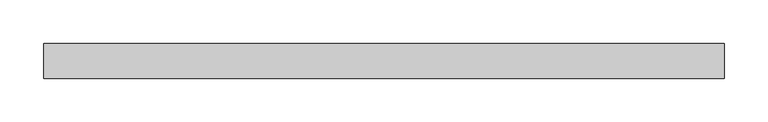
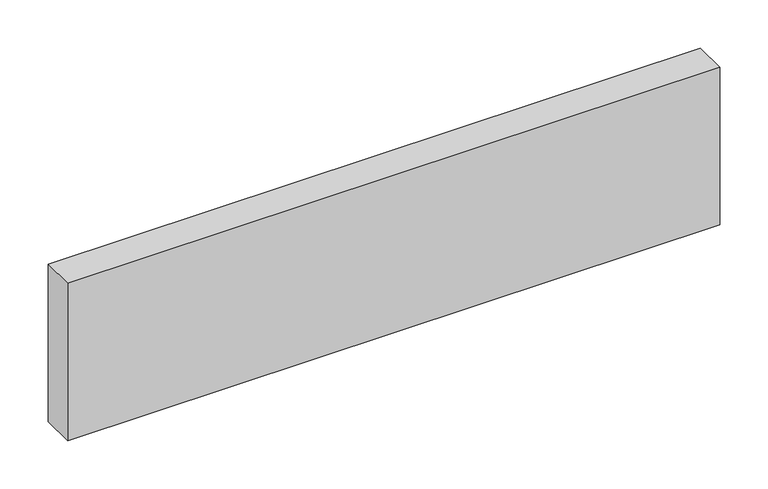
"""IFC4 building model written with IfcOpenShell, lengths in millimetres: plate geometry, Panneau système vide : Epaiss. 4cm."""

import ifcopenshell
import ifcopenshell.guid

model = None  # the IFC model being written
_history = None  # IfcOwnerHistory: only IFC2X3 demands one
_inside = {}  # id of a spatial element -> (the spatial element, [elements in it])
_under = {}  # id of a project, library or spatial element -> (it, [spatial elements below it])
_declared = {}  # id of a project -> (the project, [libraries it declares])
_typed = {}  # id of a type object -> (the type object, [elements of that type])
_made_of = {}  # id of a material, layer set ... -> (it, [elements and type objects made of it])


def new_model(schema):
    """Start an empty IFC model of exactly this schema.

    Asked for "IFC4X3", IfcOpenShell would pick the latest addendum, in which some entities
    have other attributes; the version numbers below select the first issue.
    IFC2X3 requires an IfcOwnerHistory on every rooted entity: one is made here for all.
    """
    global model, _history
    if schema == "IFC4X3":
        model = ifcopenshell.file(schema_version=(4, 3, 0, 0))
    else:
        model = ifcopenshell.file(schema=schema)
    _inside.clear()
    _under.clear()
    _declared.clear()
    _typed.clear()
    _made_of.clear()
    _history = None
    if model.schema == "IFC2X3":
        org = make("IfcOrganization", Name="unknown")
        user = make(
            "IfcPersonAndOrganization",
            ThePerson=make("IfcPerson", FamilyName="unknown"),
            TheOrganization=org,
        )
        app = make(
            "IfcApplication",
            ApplicationDeveloper=org,
            Version="unknown",
            ApplicationFullName="unknown",
            ApplicationIdentifier="unknown",
        )
        _history = make(
            "IfcOwnerHistory",
            OwningUser=user,
            OwningApplication=app,
            ChangeAction="ADDED",
            CreationDate=0,
        )
    return model


def make(cls, **values):
    """One entity of the class cls with the attributes given. An attribute that is None is left unset."""
    return model.create_entity(
        cls, **{name: value for name, value in values.items() if value is not None}
    )


def rooted(cls, **values):
    """An entity with a GlobalId (a new one), such as an element, a storey or a relation."""
    return make(cls, GlobalId=ifcopenshell.guid.new(), OwnerHistory=_history, **values)


def si_unit(unit_type, name, prefix=None):
    """IfcSIUnit, for example si_unit("LENGTHUNIT", "METRE", prefix="MILLI")."""
    return make("IfcSIUnit", UnitType=unit_type, Prefix=prefix, Name=name)


def assignment(units):
    """IfcUnitAssignment: the units of a project."""
    return None if units is None else make("IfcUnitAssignment", Units=units)


def point(xyz):
    """IfcCartesianPoint."""
    return None if xyz is None else make("IfcCartesianPoint", Coordinates=xyz)


def direction(xyz):
    """IfcDirection."""
    return None if xyz is None else make("IfcDirection", DirectionRatios=xyz)


def frame(location, z_axis=None, x_axis=None):
    """IfcAxis2Placement3D, a coordinate frame: its origin and axes. An axis left out is left unset."""
    return make(
        "IfcAxis2Placement3D",
        Location=point(location),
        Axis=direction(z_axis),
        RefDirection=direction(x_axis),
    )


def origin():
    """The frame at (0, 0, 0) with its axes left unset."""
    return frame((0.0, 0.0, 0.0))


def origin_with_axes():
    """The frame at (0, 0, 0) with the z axis (0, 0, 1) and the x axis (1, 0, 0) written out."""
    return frame((0.0, 0.0, 0.0), z_axis=(0.0, 0.0, 1.0), x_axis=(1.0, 0.0, 0.0))


def place(relative_to, where):
    """IfcLocalPlacement: puts the frame where relative to a parent placement (None: the world)."""
    return make(
        "IfcLocalPlacement", PlacementRelTo=relative_to, RelativePlacement=where
    )


def context(
    kind, dimensions, precision=None, world=None, true_north=None, identifier=None
):
    """IfcGeometricRepresentationContext, for example the 3D "Model" context."""
    return make(
        "IfcGeometricRepresentationContext",
        ContextIdentifier=identifier,
        ContextType=kind,
        CoordinateSpaceDimension=dimensions,
        Precision=precision,
        WorldCoordinateSystem=world,
        TrueNorth=true_north,
    )


def project(units=None, contexts=None):
    """IfcProject with its units and contexts."""
    return rooted(
        "IfcProject",
        Name="project",
        RepresentationContexts=contexts,
        UnitsInContext=assignment(units),
    )


def spatial(cls, under=None, at=None, **own):
    """A site, building, storey or space (cls), placed at a placement, below another one or the project."""
    s = rooted(cls, ObjectPlacement=at, **own)
    if under is not None:
        _under.setdefault(under.id(), (under, []))[1].append(s)
    return s


def polyline(points):
    """IfcPolyline through the points."""
    return make("IfcPolyline", Points=[point(p) for p in points])


def outline(outer, holes=None, kind="AREA"):
    """IfcArbitraryClosedProfileDef: a profile drawn as a closed curve; with holes, ...WithVoids."""
    if holes is None:
        return make("IfcArbitraryClosedProfileDef", ProfileType=kind, OuterCurve=outer)
    return make(
        "IfcArbitraryProfileDefWithVoids",
        ProfileType=kind,
        OuterCurve=outer,
        InnerCurves=holes,
    )


def extrude(swept, where, along, depth):
    """IfcExtrudedAreaSolid: the profile swept, set in the frame where, extruded along a direction by depth."""
    return make(
        "IfcExtrudedAreaSolid",
        SweptArea=swept,
        Position=where,
        ExtrudedDirection=direction(along),
        Depth=depth,
    )


def shape(context_of_items, identifier, shape_type, items):
    """IfcShapeRepresentation: the items that make up one representation, for example the "Body"."""
    return make(
        "IfcShapeRepresentation",
        ContextOfItems=context_of_items,
        RepresentationIdentifier=identifier,
        RepresentationType=shape_type,
        Items=items,
    )


def source(mapping_origin, context_of_items, identifier, shape_type, items):
    """IfcRepresentationMap: a shape defined once, which mapped items show again and again."""
    return make(
        "IfcRepresentationMap",
        MappingOrigin=mapping_origin,
        MappedRepresentation=shape(context_of_items, identifier, shape_type, items),
    )


def transform(
    local_origin,
    x_axis=None,
    y_axis=None,
    z_axis=None,
    scale=None,
    scale2=None,
    scale3=None,
    uniform=True,
):
    """IfcCartesianTransformationOperator3D, or its non-uniform kind. x_axis, y_axis, z_axis: its Axis1, 2, 3."""
    if uniform:
        return make(
            "IfcCartesianTransformationOperator3D",
            Axis1=direction(x_axis),
            Axis2=direction(y_axis),
            LocalOrigin=point(local_origin),
            Scale=scale,
            Axis3=direction(z_axis),
        )
    return make(
        "IfcCartesianTransformationOperator3DnonUniform",
        Axis1=direction(x_axis),
        Axis2=direction(y_axis),
        LocalOrigin=point(local_origin),
        Scale=scale,
        Axis3=direction(z_axis),
        Scale2=scale2,
        Scale3=scale3,
    )


def mapped(mapping_source, mapping_target):
    """IfcMappedItem: shows the shape of a source again, moved by a transform."""
    return make(
        "IfcMappedItem", MappingSource=mapping_source, MappingTarget=mapping_target
    )


def made_of(thing, what):
    """Note that an element or type object is made of a material, layer set ...; save() writes the relation."""
    if what is not None:
        _made_of.setdefault(what.id(), (what, []))[1].append(thing)
    return thing


def element(
    cls,
    number,
    at=None,
    inside=None,
    cuts=None,
    type_object=None,
    material=None,
    context=None,
    identifier="Body",
    shape_type=None,
    held_by="IfcProductDefinitionShape",
    body=None,
    shapes=None,
    **own,
):
    """One element of the class cls, such as IfcWall. Its Tag is "e" and its number.

    at: its placement. inside: the storey or other place that contains it. cuts: it is an
    opening in that element (IfcRelVoidsElement). A single representation is given by context,
    identifier, shape_type and body (its items); several are given by shapes. held_by: the class
    of the entity that holds the representations. save() writes the other relations.
    """
    e = rooted(cls, Tag="e%d" % number, ObjectPlacement=at, **own)
    if body is not None:
        shapes = [shape(context, identifier, shape_type, body)]
    if shapes is not None:
        e.Representation = make(held_by, Representations=shapes)
    if inside is not None:
        _inside.setdefault(inside.id(), (inside, []))[1].append(e)
    if cuts is not None:
        rooted(
            "IfcRelVoidsElement", RelatingBuildingElement=cuts, RelatedOpeningElement=e
        )
    if type_object is not None:
        _typed.setdefault(type_object.id(), (type_object, []))[1].append(e)
    return made_of(e, material)


def aggregate(whole, parts):
    """IfcRelAggregates: a whole, such as a stair, and the parts it consists of."""
    return rooted("IfcRelAggregates", RelatingObject=whole, RelatedObjects=parts)


def save(model, path):
    """Write the relations noted so far, then the file.

    IfcRelAggregates (storeys below a building ...), IfcRelContainedInSpatialStructure (elements
    in a storey), IfcRelDefinesByType, IfcRelAssociatesMaterial and IfcRelDeclares: one each for
    every whole, place, type object, material and project.
    """
    for whole, parts in _under.values():
        aggregate(whole, parts)
    for where, things in _inside.values():
        rooted(
            "IfcRelContainedInSpatialStructure",
            RelatedElements=things,
            RelatingStructure=where,
        )
    for kind, things in _typed.values():
        rooted("IfcRelDefinesByType", RelatedObjects=things, RelatingType=kind)
    for what, things in _made_of.values():
        rooted("IfcRelAssociatesMaterial", RelatedObjects=things, RelatingMaterial=what)
    for by, libraries in _declared.values():
        rooted("IfcRelDeclares", RelatingContext=by, RelatedDefinitions=libraries)
    model.write(path)


def plate_86bf7cca(model_context):
    return source(origin(), model_context, "Body", "SweptSolid", [
        extrude(outline(polyline([(390.15, -20.0), (-390.15, -20.0), (-390.15, 20.0), (390.15, 20.0), (390.15, -20.0)])), origin_with_axes(), (0.0, 0.0, 1.0), 199.0),
    ])


if __name__ == "__main__":
    model = new_model("IFC4")
    model_context = context("Model", 3, world=origin())
    ifc_project = project(units=[si_unit("LENGTHUNIT", "METRE", prefix="MILLI")], contexts=[model_context])
    site = spatial("IfcSite", under=ifc_project)
    building = spatial("IfcBuilding", under=site)
    placement = place(None, origin())
    plate_shape = plate_86bf7cca(model_context)
    element("IfcPlate", 1, ObjectType="Panneau système vide : Epaiss. 4cm", at=placement, inside=building, context=model_context, shape_type="MappedRepresentation", body=[
        mapped(plate_shape, transform((0.0, 0.0, 0.0), x_axis=(1.0, 0.0, 0.0), y_axis=(0.0, 1.0, 0.0), z_axis=(0.0, 0.0, 1.0))),
    ])
    save(model, "model.ifc")
